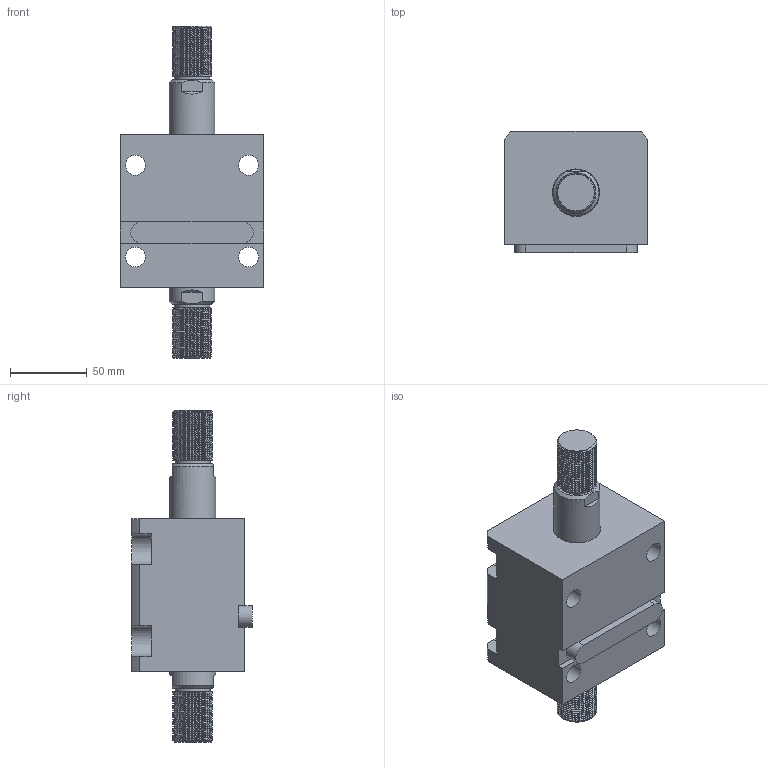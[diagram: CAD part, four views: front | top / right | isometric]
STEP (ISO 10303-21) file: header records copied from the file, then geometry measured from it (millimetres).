
FILE_DESCRIPTION(/* description */ (''),/* implementation_level */ '2;1');
FILE_NAME(/* name */ 'CHTB-LW50-25W.stp',/* time_stamp */ '2022-04-29T18:07:21+08:00',/* author */ (''),/* organization */ (''),/* preprocessor_version */ 'ST-DEVELOPER v16.7',/* originating_system */ 'SIEMENS PLM Software NX 12.0',/* authorisation */ '');
FILE_SCHEMA (('AUTOMOTIVE_DESIGN { 1 0 10303 214 3 1 1 1 }'));
Length unit declared in the file: millimetre
Products named in the file (1): CHTB-LW50-25W
Bounding box: 94 x 79 x 217 mm (x, y, z)
Volume: 676919.2 mm3; surface area: 117050.7 mm2
Topology: 3 solids, 3 shells, 467 faces, 1456 edges, 1038 vertices
Faces by surface type: plane 307, extrusion 80, cylinder 44, cone 13, bspline 12, torus 11
Full cylindrical faces by diameter (mm): 4 x2, 5 x2, 10.7 x2, 13 x4, 23 x2, 30 x4, 39 x1, 46 x1, 50 x5, 59 x1
Entity records: 27737 total; most frequent: CARTESIAN_POINT 13537, ORIENTED_EDGE 2782, DIRECTION 1909, EDGE_CURVE 1391, VERTEX_POINT 1024, VECTOR 935, LINE 855, EDGE_LOOP 575
